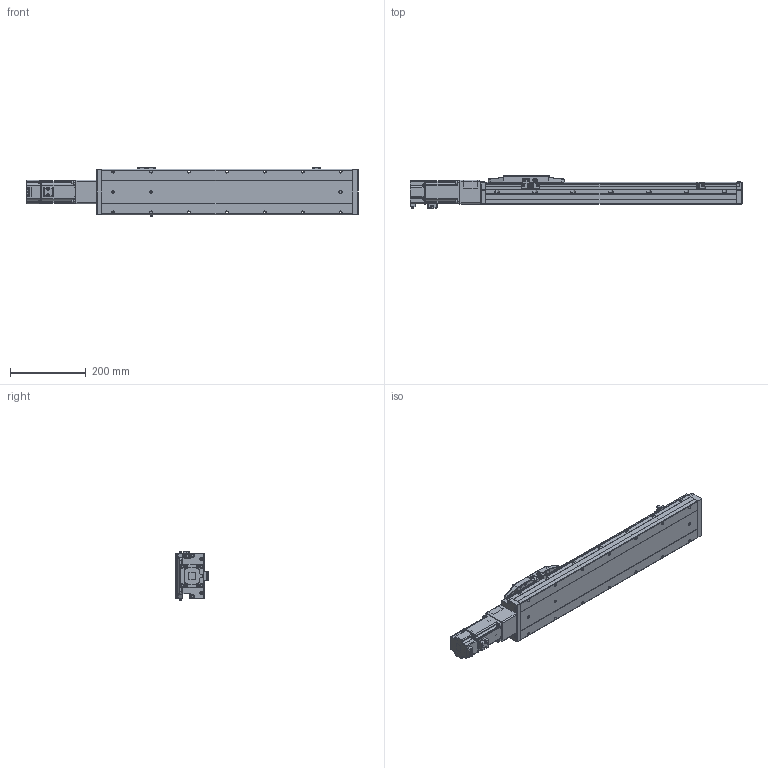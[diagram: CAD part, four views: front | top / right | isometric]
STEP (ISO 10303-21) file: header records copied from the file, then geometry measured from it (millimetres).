
FILE_DESCRIPTION (( 'STEP AP214' ), '1' );
FILE_NAME ('CTH12-L10-S450-BC-C40（简）.STEP', '2023-02-06T05:29:44', ( '' ), ( '' ), 'SwSTEP 2.0', 'SolidWorks 2018', '' );
FILE_SCHEMA (( 'AUTOMOTIVE_DESIGN' ));
Length unit declared in the file: millimetre
Products named in the file (23): 内六角圆柱头螺钉M3-1; CTH12_body_3; CTH12; 嫖萇羲壽郪磁2; CTH12賑怢郪磁; 蚐郲; M5蹟隊; CTH12-BL_body_4; 400W萇儂; CTH12覜茼え; 湮賑怢  裔赽-1(CTH12)賑怢; CTH12底座-L651简（450行程）; CTH12賑怢ㄗ潠ㄘ; CTH12-BC-03_1; hex nuts, style 1-grades ab gb_GB_FASTENER_NUT_SNAB1 M3-N; CTH12-BC-06-T40（cth8-bc-06-t40-G）_1; 内六角圆柱头螺钉M3-2; CTH12萇儂釱; CTH12-L10-S450-BC-C40（简）; CTH嫖萇羲壽假蚾啣; PM-Y45; 嫖萇羲壽郪磁1333; 内六角圆柱头螺钉M3
Assembly tree (43 placements, depth 4):
  CTH12-L10-S450-BC-C40（简）
    CTH12底座-L651简（450行程）
    蚐郲  x2
    CTH12-BL_body_4
    CTH12_body_3
    CTH12賑怢郪磁
      CTH12
        湮賑怢  裔赽-1(CTH12)賑怢
        CTH12賑怢ㄗ潠ㄘ
    CTH12覜茼え
    嫖萇羲壽郪磁2
      CTH嫖萇羲壽假蚾啣
      PM-Y45
      内六角圆柱头螺钉M3-1  x2
      内六角圆柱头螺钉M3-2  x2
      hex nuts, style 1-grades ab gb_GB_FASTENER_NUT_SNAB1 M3-N  x2
    CTH12萇儂釱
      CTH12-BC-03_1
      CTH12-BC-06-T40（cth8-bc-06-t40-G）_1
    嫖萇羲壽郪磁1333  x2
      CTH嫖萇羲壽假蚾啣
      PM-Y45
      内六角圆柱头螺钉M3-2
      内六角圆柱头螺钉M3-1
      hex nuts, style 1-grades ab gb_GB_FASTENER_NUT_SNAB1 M3-N
    内六角圆柱头螺钉M3  x6
    400W萇儂
    M5蹟隊  x4
Bounding box: 875.8 x 86.5 x 131.52 mm (x, y, z)
Volume: 4887452.7 mm3; surface area: 535029.1 mm2
Topology: 45 solids, 47 shells, 2837 faces, 7027 edges, 4415 vertices
Faces by surface type: plane 1408, cylinder 860, cone 311, bspline 130, torus 124, sphere 4
Entity records: 87592 total; most frequent: CARTESIAN_POINT 29990, ORIENTED_EDGE 11156, DIRECTION 10873, EDGE_CURVE 5578, AXIS2_PLACEMENT_3D 3813, VERTEX_POINT 3519, VECTOR 3247, LINE 3247
